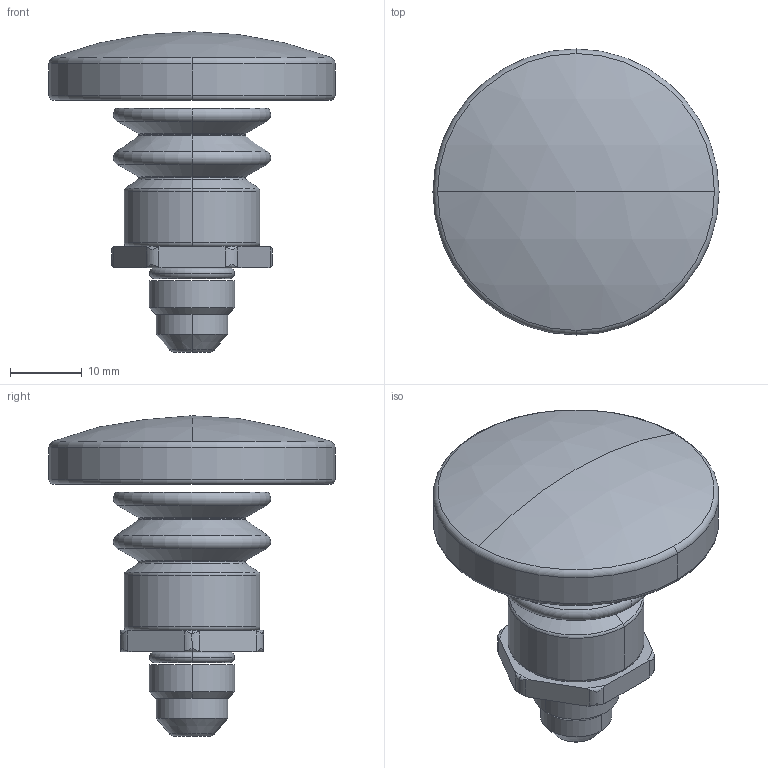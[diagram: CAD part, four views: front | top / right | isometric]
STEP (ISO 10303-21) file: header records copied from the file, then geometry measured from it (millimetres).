
FILE_DESCRIPTION (( 'STEP AP203' ), '1' );
FILE_NAME ('E-Stop SS (step format).STEP', '2013-01-09T15:50:58', ( '' ), ( '' ), 'SwSTEP 2.0', 'SolidWorks 2010', '' );
FILE_SCHEMA (( 'CONFIG_CONTROL_DESIGN' ));
Length unit declared in the file: millimetre
Products named in the file (1): E-Stop SS (step format)
Bounding box: 40 x 40 x 44.8 mm (x, y, z)
Surface area: 6511.2 mm2 (no closed solid volume)
Topology: 0 solids, 6 shells, 95 faces, 235 edges, 147 vertices
Faces by surface type: torus 48, cylinder 19, plane 12, cone 12, sphere 4
Entity records: 3057 total; most frequent: CARTESIAN_POINT 710, DIRECTION 517, ORIENTED_EDGE 454, EDGE_CURVE 235, AXIS2_PLACEMENT_3D 234, VERTEX_POINT 147, CIRCLE 138, EDGE_LOOP 100
